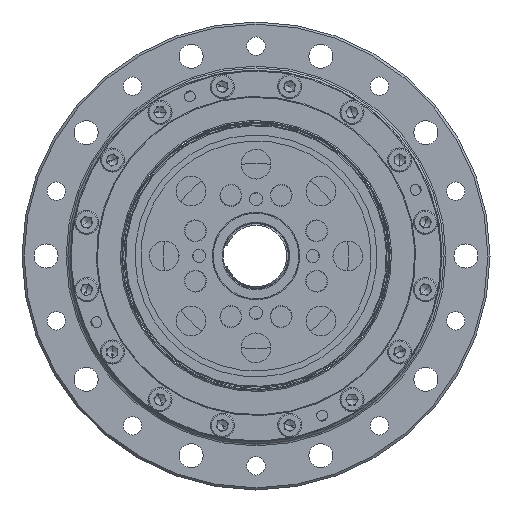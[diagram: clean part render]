
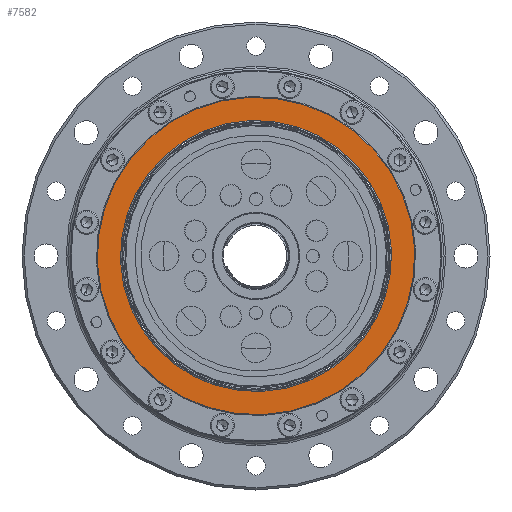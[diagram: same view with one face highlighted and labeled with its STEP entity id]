
A CAD part, left-side view. The second image highlights one B-rep face of the part: STEP entity #7582.
In plain terms, the highlighted planar face has unit normal (-1, 0, 0).
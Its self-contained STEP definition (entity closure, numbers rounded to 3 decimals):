
#328 = AXIS2_PLACEMENT_3D ( 'NONE', #5189, #15017, #6580 ) ;
#426 = VERTEX_POINT ( 'NONE', #2494 ) ;
#1676 = DIRECTION ( 'NONE',  ( -1., 0., 0. ) ) ;
#2494 = CARTESIAN_POINT ( 'NONE',  ( 658.942, -11.863, -28.64 ) ) ;
#2955 = CARTESIAN_POINT ( 'NONE',  ( 658.942, -13.891, -33.537 ) ) ;
#4678 = FACE_BOUND ( 'NONE', #11309, .T. ) ;
#4843 = DIRECTION ( 'NONE',  ( -1., 0., 0. ) ) ;
#4864 = CARTESIAN_POINT ( 'NONE',  ( 658.942, 13.891, 33.537 ) ) ;
#4931 = VERTEX_POINT ( 'NONE', #4864 ) ;
#5189 = CARTESIAN_POINT ( 'NONE',  ( 658.942, 0., 0. ) ) ;
#5338 = CARTESIAN_POINT ( 'NONE',  ( 658.942, 0., 0. ) ) ;
#5732 = CIRCLE ( 'NONE', #16976, 36.3 ) ;
#6035 = CIRCLE ( 'NONE', #9397, 31. ) ;
#6580 = DIRECTION ( 'NONE',  ( 0., 0.383, 0.924 ) ) ;
#6731 = DIRECTION ( 'NONE',  ( 0., 0.383, 0.924 ) ) ;
#7582 = ADVANCED_FACE ( 'NONE', ( #8410, #4678 ), #17115, .T. ) ;
#7682 = AXIS2_PLACEMENT_3D ( 'NONE', #16703, #16351, #16292 ) ;
#8410 = FACE_OUTER_BOUND ( 'NONE', #14780, .T. ) ;
#8749 = EDGE_CURVE ( 'NONE', #11633, #426, #9157, .T. ) ;
#8965 = EDGE_CURVE ( 'NONE', #426, #11633, #6035, .T. ) ;
#9039 = CARTESIAN_POINT ( 'NONE',  ( 658.942, 11.863, 28.64 ) ) ;
#9157 = CIRCLE ( 'NONE', #15353, 31. ) ;
#9397 = AXIS2_PLACEMENT_3D ( 'NONE', #5338, #15137, #6731 ) ;
#9543 = CIRCLE ( 'NONE', #328, 36.3 ) ;
#9604 = EDGE_CURVE ( 'NONE', #4931, #13998, #9543, .T. ) ;
#10092 = CARTESIAN_POINT ( 'NONE',  ( 658.942, 0., 0. ) ) ;
#11309 = EDGE_LOOP ( 'NONE', ( #11860, #12317 ) ) ;
#11500 = DIRECTION ( 'NONE',  ( 0., 0.383, 0.924 ) ) ;
#11633 = VERTEX_POINT ( 'NONE', #9039 ) ;
#11860 = ORIENTED_EDGE ( 'NONE', *, *, #8749, .F. ) ;
#12317 = ORIENTED_EDGE ( 'NONE', *, *, #8965, .F. ) ;
#13280 = CARTESIAN_POINT ( 'NONE',  ( 658.942, 0., 0. ) ) ;
#13998 = VERTEX_POINT ( 'NONE', #2955 ) ;
#14678 = DIRECTION ( 'NONE',  ( 0., 0.383, 0.924 ) ) ;
#14780 = EDGE_LOOP ( 'NONE', ( #15617, #16245 ) ) ;
#15017 = DIRECTION ( 'NONE',  ( -1., 0., 0. ) ) ;
#15137 = DIRECTION ( 'NONE',  ( -1., 0., 0. ) ) ;
#15353 = AXIS2_PLACEMENT_3D ( 'NONE', #13280, #4843, #14678 ) ;
#15617 = ORIENTED_EDGE ( 'NONE', *, *, #17966, .T. ) ;
#16245 = ORIENTED_EDGE ( 'NONE', *, *, #9604, .T. ) ;
#16292 = DIRECTION ( 'NONE',  ( 0., 0.383, 0.924 ) ) ;
#16351 = DIRECTION ( 'NONE',  ( -1., 0., 0. ) ) ;
#16703 = CARTESIAN_POINT ( 'NONE',  ( 658.942, 0., 0. ) ) ;
#16976 = AXIS2_PLACEMENT_3D ( 'NONE', #10092, #1676, #11500 ) ;
#17115 = PLANE ( 'NONE',  #7682 ) ;
#17966 = EDGE_CURVE ( 'NONE', #13998, #4931, #5732, .T. ) ;
